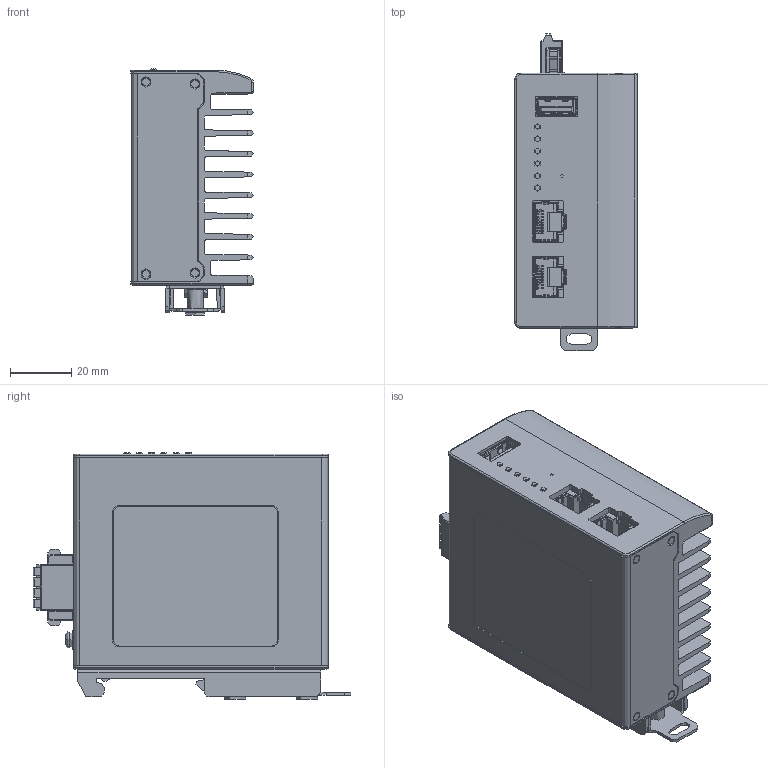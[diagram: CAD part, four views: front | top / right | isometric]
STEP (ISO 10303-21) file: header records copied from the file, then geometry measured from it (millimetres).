
FILE_DESCRIPTION((''),'2;1');
FILE_NAME('00_IEG_G102_BP_ASSY_UNIT_PZ','2020-03-06T10:47:20',('YihsuanYS_Lee'),('PTC'),'CREO PARAMETRIC BY PTC INC, 2018020','CREO PARAMETRIC BY PTC INC, 2018020','');
FILE_SCHEMA(('AUTOMOTIVE_DESIGN { 1 0 10303 214 1 1 1 1 }'));
Products named in the file (1): 00_IEG_G102_BP_ASSY_UNIT_PZ
Bounding box: 40 x 103.33 x 80.2 mm (x, y, z)
Topology: 49 solids, 88 shells, 8814 faces, 24554 edges, 15747 vertices
Faces by surface type: plane 6310, cylinder 2063, torus 143, cone 142, bspline 130, sphere 22, extrusion 4
Full cylindrical faces by diameter (mm): 1.17 x4
Entity records: 315012 total; most frequent: CARTESIAN_POINT 64185, ORIENTED_EDGE 48749, DIRECTION 45031, EDGE_CURVE 24546, VECTOR 19317, LINE 19313, VERTEX_POINT 15761, AXIS2_PLACEMENT_3D 12857
